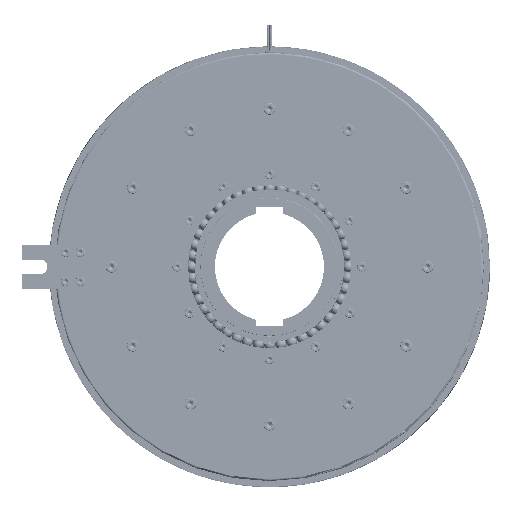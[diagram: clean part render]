
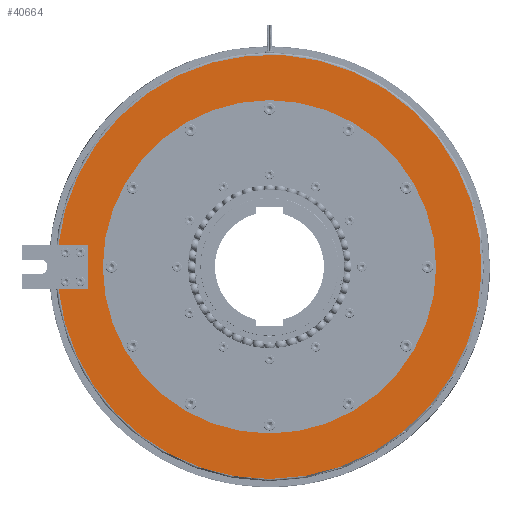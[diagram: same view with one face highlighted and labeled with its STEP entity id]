
A CAD part, left-side view. The second image highlights one B-rep face of the part: STEP entity #40664.
In plain terms, the highlighted planar face has unit normal (-1, 0, 0).
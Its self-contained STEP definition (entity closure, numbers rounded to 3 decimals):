
#822=FACE_BOUND('',#5414,.T.);
#1914=PLANE('',#43756);
#3153=FACE_OUTER_BOUND('',#5413,.T.);
#5413=EDGE_LOOP('',(#30898,#30899,#30900,#30901,#30902));
#5414=EDGE_LOOP('',(#30903,#30904));
#9568=CIRCLE('',#43757,291.5);
#9569=CIRCLE('',#43758,291.5);
#9570=CIRCLE('',#43759,229.);
#9571=CIRCLE('',#43760,229.);
#11663=LINE('',#59602,#13296);
#11667=LINE('',#59609,#13300);
#11670=LINE('',#59614,#13303);
#13296=VECTOR('',#47517,10.);
#13300=VECTOR('',#47523,10.);
#13303=VECTOR('',#47528,10.);
#15012=VERTEX_POINT('',#59599);
#15013=VERTEX_POINT('',#59601);
#15015=VERTEX_POINT('',#59607);
#15016=VERTEX_POINT('',#59612);
#16759=VERTEX_POINT('',#87465);
#16760=VERTEX_POINT('',#87468);
#16761=VERTEX_POINT('',#87469);
#19719=EDGE_CURVE('',#15013,#15012,#11663,.T.);
#19723=EDGE_CURVE('',#15012,#15015,#11667,.T.);
#19726=EDGE_CURVE('',#15015,#15016,#11670,.T.);
#22032=EDGE_CURVE('',#16759,#15016,#9568,.T.);
#22033=EDGE_CURVE('',#15013,#16759,#9569,.T.);
#22034=EDGE_CURVE('',#16760,#16761,#9570,.T.);
#22035=EDGE_CURVE('',#16761,#16760,#9571,.T.);
#30898=ORIENTED_EDGE('',*,*,#19726,.T.);
#30899=ORIENTED_EDGE('',*,*,#22032,.F.);
#30900=ORIENTED_EDGE('',*,*,#22033,.F.);
#30901=ORIENTED_EDGE('',*,*,#19719,.T.);
#30902=ORIENTED_EDGE('',*,*,#19723,.T.);
#30903=ORIENTED_EDGE('',*,*,#22034,.T.);
#30904=ORIENTED_EDGE('',*,*,#22035,.T.);
#40664=ADVANCED_FACE('',(#3153,#822),#1914,.T.);
#43756=AXIS2_PLACEMENT_3D('',#87464,#50959,#50960);
#43757=AXIS2_PLACEMENT_3D('',#87466,#50961,#50962);
#43758=AXIS2_PLACEMENT_3D('',#87467,#50963,#50964);
#43759=AXIS2_PLACEMENT_3D('',#87470,#50965,#50966);
#43760=AXIS2_PLACEMENT_3D('',#87471,#50967,#50968);
#47517=DIRECTION('',(0.,-1.,0.));
#47523=DIRECTION('',(0.,0.,-1.));
#47528=DIRECTION('',(0.,1.,0.));
#50959=DIRECTION('center_axis',(-1.,0.,0.));
#50960=DIRECTION('ref_axis',(0.,0.,
1.));
#50961=DIRECTION('center_axis',(1.,0.,0.));
#50962=DIRECTION('ref_axis',(0.,-1.,0.));
#50963=DIRECTION('center_axis',(1.,0.,0.));
#50964=DIRECTION('ref_axis',(0.,-1.,0.));
#50965=DIRECTION('center_axis',(1.,0.,0.));
#50966=DIRECTION('ref_axis',(0.,1.,0.));
#50967=DIRECTION('center_axis',(1.,0.,0.));
#50968=DIRECTION('ref_axis',(0.,1.,0.));
#59599=CARTESIAN_POINT('',(-145.5,250.,30.));
#59601=CARTESIAN_POINT('',(-145.5,289.952,30.));
#59602=CARTESIAN_POINT('',(-145.5,293.625,30.));
#59607=CARTESIAN_POINT('',(-145.5,250.,-30.));
#59609=CARTESIAN_POINT('',(-145.5,250.,15.));
#59612=CARTESIAN_POINT('',(-145.5,289.952,-30.));
#59614=CARTESIAN_POINT('',(-145.5,248.625,-30.));
#87464=CARTESIAN_POINT('Origin',(-145.5,247.25,0.));
#87465=CARTESIAN_POINT('',(-145.5,0.,-291.5));
#87466=CARTESIAN_POINT('Origin',(-145.5,0.,0.));
#87467=CARTESIAN_POINT('Origin',(-145.5,0.,0.));
#87468=CARTESIAN_POINT('',(-145.5,229.,0.));
#87469=CARTESIAN_POINT('',(-145.5,-229.,0.));
#87470=CARTESIAN_POINT('Origin',(-145.5,0.,0.));
#87471=CARTESIAN_POINT('Origin',(-145.5,0.,0.));
